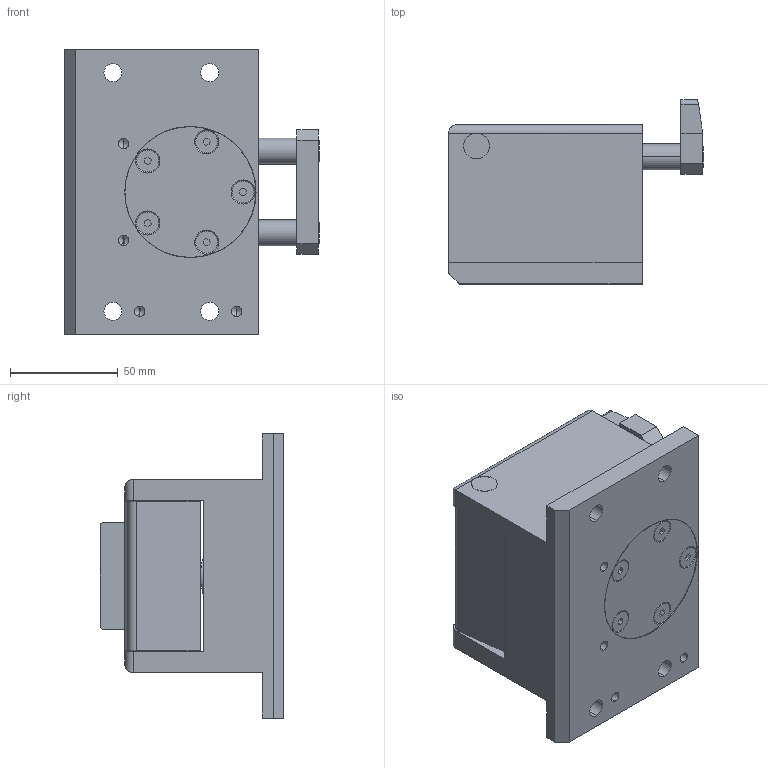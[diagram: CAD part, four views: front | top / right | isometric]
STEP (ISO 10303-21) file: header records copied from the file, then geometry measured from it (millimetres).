
FILE_DESCRIPTION (( 'STEP AP203' ), '1' );
FILE_NAME ('DBS150T4.STEP', '2008-09-22T10:04:43', ( '' ), ( '' ), 'SwSTEP 2.0', 'SolidWorks 2007', '' );
FILE_SCHEMA (( 'CONFIG_CONTROL_DESIGN' ));
Length unit declared in the file: millimetre
Products named in the file (1): DBS150T4
Bounding box: 118.5 x 85.5 x 132 mm (x, y, z)
Volume: 599161.7 mm3; surface area: 88659.6 mm2
Topology: 2 solids, 2 shells, 238 faces, 580 edges, 365 vertices
Faces by surface type: plane 115, cylinder 87, cone 32, torus 4
Entity records: 6977 total; most frequent: DIRECTION 1226, CARTESIAN_POINT 1218, ORIENTED_EDGE 1124, EDGE_CURVE 562, AXIS2_PLACEMENT_3D 435, VERTEX_POINT 365, VECTOR 356, LINE 356
